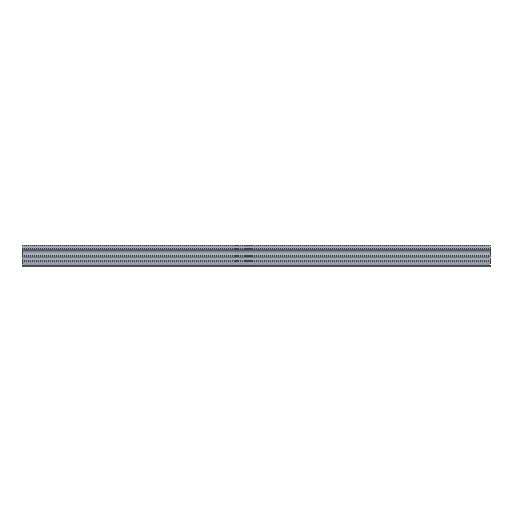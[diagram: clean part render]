
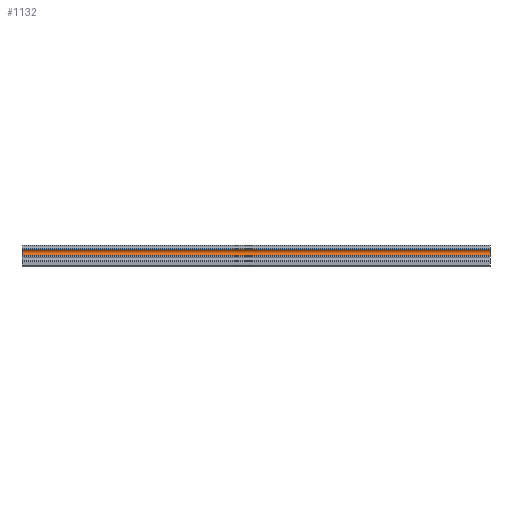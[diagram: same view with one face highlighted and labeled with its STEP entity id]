
A CAD part, top view. The second image highlights one B-rep face of the part: STEP entity #1132.
In plain terms, the highlighted cylindrical face has radius 2.82 mm (diameter 5.64 mm), a partial arc.
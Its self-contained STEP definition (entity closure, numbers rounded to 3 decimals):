
#1 = LINE ( 'NONE', #1032, #2135 ) ;
#8 = AXIS2_PLACEMENT_3D ( 'NONE', #294, #1915, #93 ) ;
#27 = CARTESIAN_POINT ( 'NONE',  ( 0., 15.498, 8.85 ) ) ;
#70 = LINE ( 'NONE', #884, #2052 ) ;
#78 = FACE_OUTER_BOUND ( 'NONE', #1690, .T. ) ;
#93 = DIRECTION ( 'NONE',  ( 0., 0., 1. ) ) ;
#103 = DIRECTION ( 'NONE',  ( -1., 0., 0. ) ) ;
#136 = CIRCLE ( 'NONE', #179, 2.82 ) ;
#156 = CARTESIAN_POINT ( 'NONE',  ( 420., 15.498, 8.85 ) ) ;
#179 = AXIS2_PLACEMENT_3D ( 'NONE', #1548, #1340, #353 ) ;
#221 = CARTESIAN_POINT ( 'NONE',  ( 0., 12.7, 9.2 ) ) ;
#261 = EDGE_CURVE ( 'NONE', #2457, #707, #136, .T. ) ;
#271 = ORIENTED_EDGE ( 'NONE', *, *, #261, .F. ) ;
#291 = ORIENTED_EDGE ( 'NONE', *, *, #727, .F. ) ;
#294 = CARTESIAN_POINT ( 'NONE',  ( 420., 12.7, 9.2 ) ) ;
#353 = DIRECTION ( 'NONE',  ( 0., 0., -1. ) ) ;
#395 = ORIENTED_EDGE ( 'NONE', *, *, #418, .T. ) ;
#418 = EDGE_CURVE ( 'NONE', #2457, #438, #1, .T. ) ;
#438 = VERTEX_POINT ( 'NONE', #27 ) ;
#493 = CYLINDRICAL_SURFACE ( 'NONE', #8, 2.82 ) ;
#639 = ORIENTED_EDGE ( 'NONE', *, *, #1882, .T. ) ;
#707 = VERTEX_POINT ( 'NONE', #1074 ) ;
#727 = EDGE_CURVE ( 'NONE', #707, #769, #70, .T. ) ;
#769 = VERTEX_POINT ( 'NONE', #2488 ) ;
#884 = CARTESIAN_POINT ( 'NONE',  ( 420., 9.902, 8.85 ) ) ;
#1032 = CARTESIAN_POINT ( 'NONE',  ( 420., 15.498, 8.85 ) ) ;
#1037 = CIRCLE ( 'NONE', #1169, 2.82 ) ;
#1074 = CARTESIAN_POINT ( 'NONE',  ( 420., 9.902, 8.85 ) ) ;
#1132 = ADVANCED_FACE ( 'NONE', ( #78 ), #493, .F. ) ;
#1169 = AXIS2_PLACEMENT_3D ( 'NONE', #221, #1472, #2289 ) ;
#1340 = DIRECTION ( 'NONE',  ( -1., 0., 0. ) ) ;
#1472 = DIRECTION ( 'NONE',  ( -1., 0., 0. ) ) ;
#1548 = CARTESIAN_POINT ( 'NONE',  ( 420., 12.7, 9.2 ) ) ;
#1690 = EDGE_LOOP ( 'NONE', ( #639, #291, #271, #395 ) ) ;
#1882 = EDGE_CURVE ( 'NONE', #438, #769, #1037, .T. ) ;
#1915 = DIRECTION ( 'NONE',  ( -1., 0., 0. ) ) ;
#2052 = VECTOR ( 'NONE', #103, 1000. ) ;
#2135 = VECTOR ( 'NONE', #2446, 1000. ) ;
#2289 = DIRECTION ( 'NONE',  ( 0., 0., -1. ) ) ;
#2446 = DIRECTION ( 'NONE',  ( -1., 0., 0. ) ) ;
#2457 = VERTEX_POINT ( 'NONE', #156 ) ;
#2488 = CARTESIAN_POINT ( 'NONE',  ( 0., 9.902, 8.85 ) ) ;
